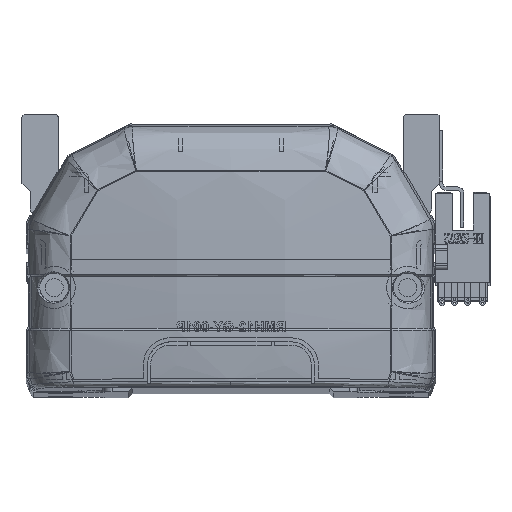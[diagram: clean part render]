
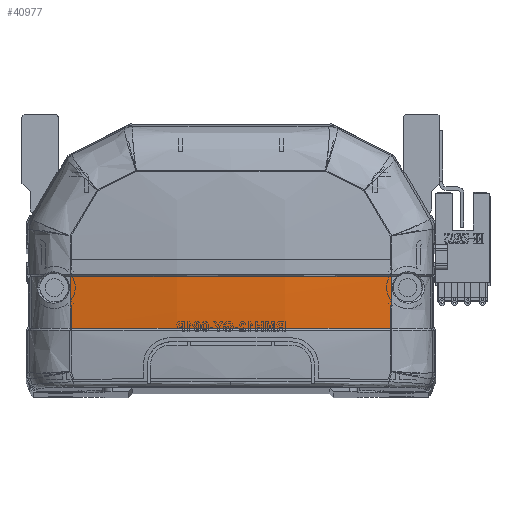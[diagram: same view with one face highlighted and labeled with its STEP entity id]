
A CAD part, top view. The second image highlights one B-rep face of the part: STEP entity #40977.
In plain terms, the highlighted free-form (B-spline) face has degree [3, 3] with [4, 4] control points.
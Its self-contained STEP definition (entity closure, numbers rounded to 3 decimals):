
#105 = CARTESIAN_POINT ( 'NONE',  ( -39.973, 20.118, -6.142 ) ) ;
#1318 = CARTESIAN_POINT ( 'NONE',  ( -39.985, 15.83, -5.879 ) ) ;
#1353 = CARTESIAN_POINT ( 'NONE',  ( 13.598, 24.342, -10.47 ) ) ;
#1355 = CARTESIAN_POINT ( 'NONE',  ( -26.748, 28.706, -8.432 ) ) ;
#4281 = CARTESIAN_POINT ( 'NONE',  ( 39.985, 15.83, -5.879 ) ) ;
#5121 = CARTESIAN_POINT ( 'NONE',  ( 13.598, 15.499, -10.032 ) ) ;
#8587 = CARTESIAN_POINT ( 'NONE',  ( -40.461, 15.757, -5.8 ) ) ;
#8751 = CARTESIAN_POINT ( 'NONE',  ( 40.461, 24.47, -6.231 ) ) ;
#8987 = ORIENTED_EDGE ( 'NONE', *, *, #10452, .T. ) ;
#9079 = CARTESIAN_POINT ( 'NONE',  ( 40.461, 15.757, -5.8 ) ) ;
#10452 = EDGE_CURVE ( 'NONE', #33214, #17322, #22736, .T. ) ;
#10738 = CARTESIAN_POINT ( 'NONE',  ( 39.966, 24.413, -6.306 ) ) ;
#11612 = CARTESIAN_POINT ( 'NONE',  ( -39.963, 28.706, -6.372 ) ) ;
#12816 = VERTEX_POINT ( 'NONE', #45644 ) ;
#12903 = CARTESIAN_POINT ( 'NONE',  ( -40.461, 20.111, -6.066 ) ) ;
#15683 = CARTESIAN_POINT ( 'NONE',  ( -36.679, 15.83, -6.395 ) ) ;
#15977 = EDGE_CURVE ( 'NONE', #12816, #41137, #35814, .T. ) ;
#17322 = VERTEX_POINT ( 'NONE', #41218 ) ;
#19511 = CARTESIAN_POINT ( 'NONE',  ( -6.692, 15.83, -8.984 ) ) ;
#19562 = CARTESIAN_POINT ( 'NONE',  ( -39.966, 24.412, -6.306 ) ) ;
#19885 = CARTESIAN_POINT ( 'NONE',  ( -13.598, 19.918, -10.302 ) ) ;
#20563 = ORIENTED_EDGE ( 'NONE', *, *, #48535, .F. ) ;
#22239 = ORIENTED_EDGE ( 'NONE', *, *, #15977, .T. ) ;
#22736 = B_SPLINE_CURVE_WITH_KNOTS ( 'NONE', 3,
 ( #48730, #33650, #10738, #33316 ),
 .UNSPECIFIED., .F., .F.,
 ( 4, 4 ),
 ( 0., 1. ),
 .UNSPECIFIED. ) ;
#23851 = CARTESIAN_POINT ( 'NONE',  ( 40.461, 20.111, -6.066 ) ) ;
#23983 = CARTESIAN_POINT ( 'NONE',  ( -33.365, 15.83, -6.848 ) ) ;
#24181 = CARTESIAN_POINT ( 'NONE',  ( -13.598, 24.342, -10.47 ) ) ;
#24309 = CARTESIAN_POINT ( 'NONE',  ( -13.384, 15.83, -8.724 ) ) ;
#24341 = CARTESIAN_POINT ( 'NONE',  ( -39.963, 28.706, -6.372 ) ) ;
#25313 =( BOUNDED_SURFACE ( )  B_SPLINE_SURFACE ( 3, 3, ( 
 ( #9079, #23851, #8751, #42753 ),
 ( #5121, #31319, #1353, #27822 ),
 ( #35127, #19885, #24181, #46736 ),
 ( #8587, #12903, #27983, #38762 ) ),
 .UNSPECIFIED., .F., .F., .F. ) 
 B_SPLINE_SURFACE_WITH_KNOTS ( ( 4, 4 ),
 ( 4, 4 ),
 ( 0., 1. ),
 ( 0., 1. ),
 .UNSPECIFIED. ) 
 GEOMETRIC_REPRESENTATION_ITEM ( )  RATIONAL_B_SPLINE_SURFACE ( (
 ( 1., 1., 1., 1.),
 ( 0.992, 0.992, 0.992, 0.992),
 ( 0.992, 0.992, 0.992, 0.992),
 ( 1., 1., 1., 1.) ) ) 
 REPRESENTATION_ITEM ( '' )  SURFACE ( )  );
#27822 = CARTESIAN_POINT ( 'NONE',  ( 13.598, 28.769, -10.535 ) ) ;
#27983 = CARTESIAN_POINT ( 'NONE',  ( -40.461, 24.47, -6.231 ) ) ;
#28146 = CARTESIAN_POINT ( 'NONE',  ( 26.749, 28.706, -8.432 ) ) ;
#28313 = CARTESIAN_POINT ( 'NONE',  ( 13.375, 28.707, -9.468 ) ) ;
#31319 = CARTESIAN_POINT ( 'NONE',  ( 13.598, 19.918, -10.302 ) ) ;
#31475 = CARTESIAN_POINT ( 'NONE',  ( -13.373, 28.707, -9.468 ) ) ;
#31601 = CARTESIAN_POINT ( 'NONE',  ( 13.38, 15.83, -8.984 ) ) ;
#33214 = VERTEX_POINT ( 'NONE', #39869 ) ;
#33316 = CARTESIAN_POINT ( 'NONE',  ( 39.963, 28.706, -6.372 ) ) ;
#33650 = CARTESIAN_POINT ( 'NONE',  ( 39.973, 20.12, -6.142 ) ) ;
#34695 = ORIENTED_EDGE ( 'NONE', *, *, #36393, .F. ) ;
#35127 = CARTESIAN_POINT ( 'NONE',  ( -13.598, 15.499, -10.032 ) ) ;
#35814 = B_SPLINE_CURVE_WITH_KNOTS ( 'NONE', 3,
 ( #11612, #19562, #105, #41794 ),
 .UNSPECIFIED., .F., .F.,
 ( 4, 4 ),
 ( 0., 1. ),
 .UNSPECIFIED. ) ;
#35816 = B_SPLINE_CURVE_WITH_KNOTS ( 'NONE', 3,
 ( #4281, #39377, #31601, #19511, #24309, #38389, #39552, #23983, #15683, #1318 ),
 .UNSPECIFIED., .F., .F.,
 ( 4, 2, 2, 2, 4 ),
 ( 0., 0.04, 0.06, 0.07, 0.08 ),
 .UNSPECIFIED. ) ;
#36393 = EDGE_CURVE ( 'NONE', #12816, #17322, #42201, .T. ) ;
#38389 = CARTESIAN_POINT ( 'NONE',  ( -23.389, 15.83, -7.947 ) ) ;
#38762 = CARTESIAN_POINT ( 'NONE',  ( -40.461, 28.832, -6.296 ) ) ;
#39377 = CARTESIAN_POINT ( 'NONE',  ( 26.761, 15.83, -7.945 ) ) ;
#39552 = CARTESIAN_POINT ( 'NONE',  ( -26.721, 15.83, -7.624 ) ) ;
#39869 = CARTESIAN_POINT ( 'NONE',  ( 39.985, 15.83, -5.879 ) ) ;
#40412 = CARTESIAN_POINT ( 'NONE',  ( -39.985, 15.83, -5.879 ) ) ;
#40977 = ADVANCED_FACE ( 'NONE', ( #45620 ), #25313, .F. ) ;
#41137 = VERTEX_POINT ( 'NONE', #40412 ) ;
#41218 = CARTESIAN_POINT ( 'NONE',  ( 39.963, 28.706, -6.372 ) ) ;
#41606 = EDGE_LOOP ( 'NONE', ( #8987, #34695, #22239, #20563 ) ) ;
#41794 = CARTESIAN_POINT ( 'NONE',  ( -39.985, 15.83, -5.879 ) ) ;
#42201 = B_SPLINE_CURVE_WITH_KNOTS ( 'NONE', 3,
 ( #24341, #1355, #31475, #28313, #28146, #46892 ),
 .UNSPECIFIED., .F., .F.,
 ( 4, 2, 4 ),
 ( 0., 0.5, 1. ),
 .UNSPECIFIED. ) ;
#42753 = CARTESIAN_POINT ( 'NONE',  ( 40.461, 28.832, -6.296 ) ) ;
#45620 = FACE_OUTER_BOUND ( 'NONE', #41606, .T. ) ;
#45644 = CARTESIAN_POINT ( 'NONE',  ( -39.963, 28.706, -6.372 ) ) ;
#46736 = CARTESIAN_POINT ( 'NONE',  ( -13.598, 28.769, -10.535 ) ) ;
#46892 = CARTESIAN_POINT ( 'NONE',  ( 39.963, 28.706, -6.372 ) ) ;
#48535 = EDGE_CURVE ( 'NONE', #33214, #41137, #35816, .T. ) ;
#48730 = CARTESIAN_POINT ( 'NONE',  ( 39.985, 15.83, -5.879 ) ) ;
